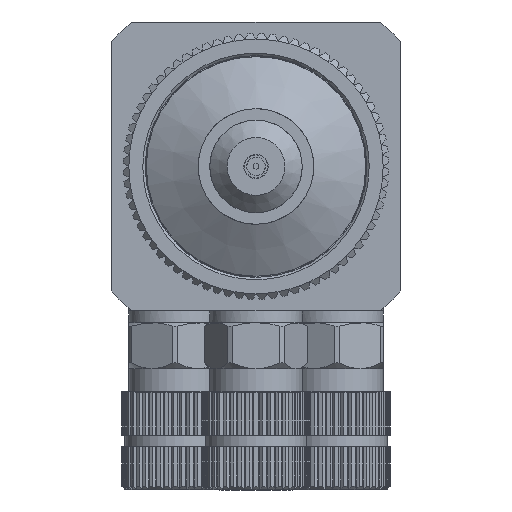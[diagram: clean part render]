
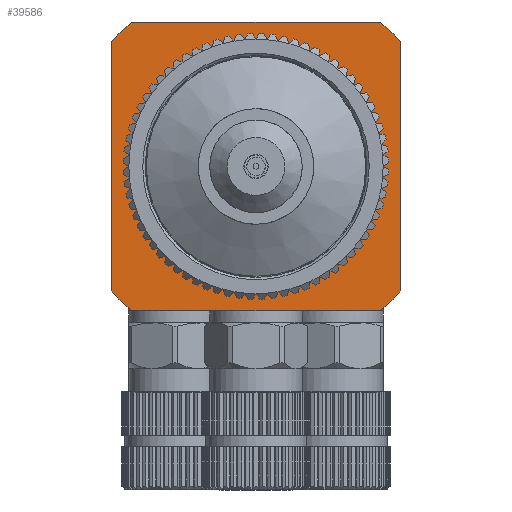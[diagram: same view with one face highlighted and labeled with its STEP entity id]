
A CAD part, front view. The second image highlights one B-rep face of the part: STEP entity #39586.
In plain terms, the highlighted planar face has unit normal (0, -1, 0).
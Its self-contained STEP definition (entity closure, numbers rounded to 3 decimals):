
#539 = EDGE_CURVE ( 'NONE', #4044, #10094, #8604, .T. ) ;
#1261 = CARTESIAN_POINT ( 'NONE',  ( 12.5, -12.5, 12.5 ) ) ;
#1493 = AXIS2_PLACEMENT_3D ( 'NONE', #5446, #22582, #39719 ) ;
#2299 = EDGE_CURVE ( 'NONE', #4044, #49965, #29872, .T. ) ;
#2977 = CARTESIAN_POINT ( 'NONE',  ( -12.5, -12.5, -12.5 ) ) ;
#3954 = CARTESIAN_POINT ( 'NONE',  ( 0., -12.5, 0. ) ) ;
#4044 = VERTEX_POINT ( 'NONE', #7190 ) ;
#4390 = AXIS2_PLACEMENT_3D ( 'NONE', #9694, #10254, #6025 ) ;
#4843 = CARTESIAN_POINT ( 'NONE',  ( 12.5, -12.5, -12.5 ) ) ;
#5234 = VECTOR ( 'NONE', #42767, 1000. ) ;
#5446 = CARTESIAN_POINT ( 'NONE',  ( 0., -12.5, 0. ) ) ;
#6025 = DIRECTION ( 'NONE',  ( -1., 0., 0. ) ) ;
#6272 = DIRECTION ( 'NONE',  ( -1., 0., 0. ) ) ;
#7190 = CARTESIAN_POINT ( 'NONE',  ( 10.77, -12.5, -12.5 ) ) ;
#8604 = LINE ( 'NONE', #33617, #48729 ) ;
#9379 = ORIENTED_EDGE ( 'NONE', *, *, #10856, .F. ) ;
#9694 = CARTESIAN_POINT ( 'NONE',  ( 0., -12.5, 0. ) ) ;
#10028 = AXIS2_PLACEMENT_3D ( 'NONE', #33348, #15659, #53879 ) ;
#10094 = VERTEX_POINT ( 'NONE', #50643 ) ;
#10254 = DIRECTION ( 'NONE',  ( 0., 1., 0. ) ) ;
#10490 = CARTESIAN_POINT ( 'NONE',  ( 0., -12.5, 0. ) ) ;
#10801 = EDGE_LOOP ( 'NONE', ( #35298 ) ) ;
#10856 = EDGE_CURVE ( 'NONE', #34916, #42608, #55251, .T. ) ;
#11197 = VERTEX_POINT ( 'NONE', #29169 ) ;
#11319 = CARTESIAN_POINT ( 'NONE',  ( 12.5, -12.5, -10.77 ) ) ;
#12442 = CARTESIAN_POINT ( 'NONE',  ( -10.77, -12.5, -12.5 ) ) ;
#13905 = CARTESIAN_POINT ( 'NONE',  ( 12.5, -12.5, 12.5 ) ) ;
#14115 = CARTESIAN_POINT ( 'NONE',  ( 12.5, -12.5, 10.77 ) ) ;
#15659 = DIRECTION ( 'NONE',  ( 0., 1., 0. ) ) ;
#18239 = ORIENTED_EDGE ( 'NONE', *, *, #52997, .F. ) ;
#18262 = ORIENTED_EDGE ( 'NONE', *, *, #42726, .F. ) ;
#18344 = ORIENTED_EDGE ( 'NONE', *, *, #2299, .T. ) ;
#18684 = ORIENTED_EDGE ( 'NONE', *, *, #27057, .T. ) ;
#18856 = DIRECTION ( 'NONE',  ( -1., 0., 0. ) ) ;
#19086 = VECTOR ( 'NONE', #20112, 1000. ) ;
#19426 = VERTEX_POINT ( 'NONE', #12442 ) ;
#19533 = EDGE_CURVE ( 'NONE', #10094, #19426, #47826, .T. ) ;
#20112 = DIRECTION ( 'NONE',  ( 0., 0., 1. ) ) ;
#21954 = CIRCLE ( 'NONE', #38116, 16.5 ) ;
#22582 = DIRECTION ( 'NONE',  ( 0., -1., 0. ) ) ;
#22881 = FACE_OUTER_BOUND ( 'NONE', #28662, .T. ) ;
#22955 = VERTEX_POINT ( 'NONE', #14115 ) ;
#23672 = EDGE_CURVE ( 'NONE', #11197, #11197, #27068, .T. ) ;
#25635 = CARTESIAN_POINT ( 'NONE',  ( -12.5, -12.5, 12.5 ) ) ;
#25730 = CIRCLE ( 'NONE', #1493, 16.5 ) ;
#27057 = EDGE_CURVE ( 'NONE', #34916, #19426, #25730, .T. ) ;
#27068 = CIRCLE ( 'NONE', #10028, 10.5 ) ;
#27107 = PLANE ( 'NONE',  #41006 ) ;
#27477 = CARTESIAN_POINT ( 'NONE',  ( 10.77, -12.5, 12.5 ) ) ;
#27606 = CARTESIAN_POINT ( 'NONE',  ( -10.77, -12.5, 12.5 ) ) ;
#28108 = ORIENTED_EDGE ( 'NONE', *, *, #55485, .T. ) ;
#28662 = EDGE_LOOP ( 'NONE', ( #18344, #44772, #28108, #18239, #18262, #9379, #18684, #47446, #30897 ) ) ;
#29169 = CARTESIAN_POINT ( 'NONE',  ( -10.5, -12.5, 0. ) ) ;
#29238 = DIRECTION ( 'NONE',  ( 0., -1., 0. ) ) ;
#29373 = EDGE_CURVE ( 'NONE', #22955, #49965, #43981, .T. ) ;
#29695 = CARTESIAN_POINT ( 'NONE',  ( -12.5, -12.5, 10.77 ) ) ;
#29816 = DIRECTION ( 'NONE',  ( -1., 0., 0. ) ) ;
#29867 = LINE ( 'NONE', #25635, #5234 ) ;
#29872 = CIRCLE ( 'NONE', #52276, 16.5 ) ;
#30897 = ORIENTED_EDGE ( 'NONE', *, *, #539, .F. ) ;
#33348 = CARTESIAN_POINT ( 'NONE',  ( 0., -12.5, 0. ) ) ;
#33617 = CARTESIAN_POINT ( 'NONE',  ( 12.5, -12.5, -12.5 ) ) ;
#34190 = DIRECTION ( 'NONE',  ( -1., 0., 0. ) ) ;
#34916 = VERTEX_POINT ( 'NONE', #52285 ) ;
#35298 = ORIENTED_EDGE ( 'NONE', *, *, #23672, .T. ) ;
#36498 = VERTEX_POINT ( 'NONE', #27477 ) ;
#36696 = CIRCLE ( 'NONE', #4390, 16.5 ) ;
#38116 = AXIS2_PLACEMENT_3D ( 'NONE', #3954, #29238, #29816 ) ;
#39586 = ADVANCED_FACE ( 'NONE', ( #44511, #22881 ), #27107, .T. ) ;
#39719 = DIRECTION ( 'NONE',  ( -1., 0., 0. ) ) ;
#41006 = AXIS2_PLACEMENT_3D ( 'NONE', #13905, #43425, #52679 ) ;
#42608 = VERTEX_POINT ( 'NONE', #29695 ) ;
#42726 = EDGE_CURVE ( 'NONE', #42608, #48622, #36696, .T. ) ;
#42767 = DIRECTION ( 'NONE',  ( 1., 0., 0. ) ) ;
#43425 = DIRECTION ( 'NONE',  ( 0., -1., 0. ) ) ;
#43981 = LINE ( 'NONE', #1261, #50938 ) ;
#44511 = FACE_BOUND ( 'NONE', #10801, .T. ) ;
#44772 = ORIENTED_EDGE ( 'NONE', *, *, #29373, .F. ) ;
#47446 = ORIENTED_EDGE ( 'NONE', *, *, #19533, .F. ) ;
#47826 = LINE ( 'NONE', #4843, #52086 ) ;
#48622 = VERTEX_POINT ( 'NONE', #27606 ) ;
#48729 = VECTOR ( 'NONE', #34190, 1000. ) ;
#49807 = DIRECTION ( 'NONE',  ( 0., -1., 0. ) ) ;
#49965 = VERTEX_POINT ( 'NONE', #11319 ) ;
#50643 = CARTESIAN_POINT ( 'NONE',  ( 0.001, -12.5, -12.5 ) ) ;
#50938 = VECTOR ( 'NONE', #52142, 1000. ) ;
#52086 = VECTOR ( 'NONE', #18856, 1000. ) ;
#52142 = DIRECTION ( 'NONE',  ( 0., 0., -1. ) ) ;
#52276 = AXIS2_PLACEMENT_3D ( 'NONE', #10490, #49807, #6272 ) ;
#52285 = CARTESIAN_POINT ( 'NONE',  ( -12.5, -12.5, -10.77 ) ) ;
#52679 = DIRECTION ( 'NONE',  ( 0., 0., -1. ) ) ;
#52997 = EDGE_CURVE ( 'NONE', #48622, #36498, #29867, .T. ) ;
#53879 = DIRECTION ( 'NONE',  ( -1., 0., 0. ) ) ;
#55251 = LINE ( 'NONE', #2977, #19086 ) ;
#55485 = EDGE_CURVE ( 'NONE', #22955, #36498, #21954, .T. ) ;
